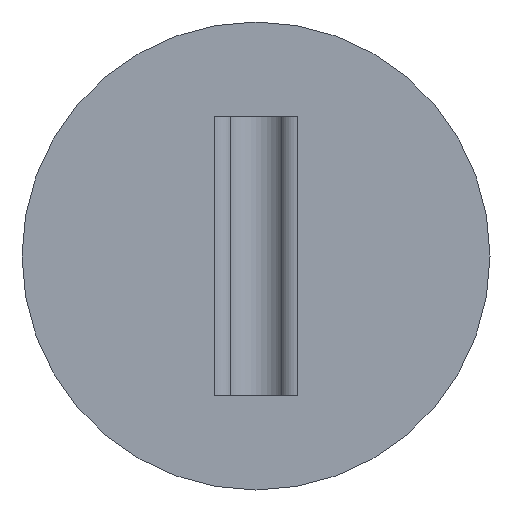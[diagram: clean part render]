
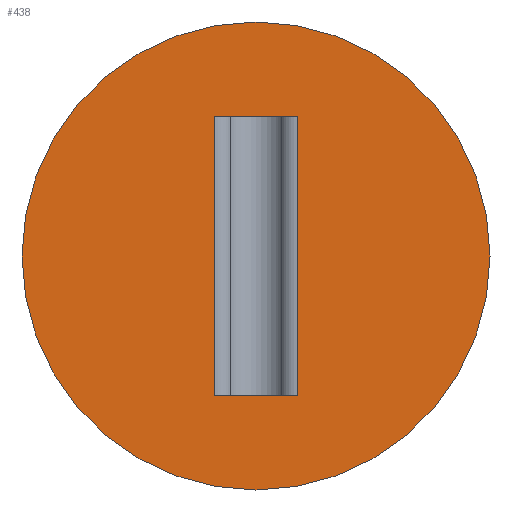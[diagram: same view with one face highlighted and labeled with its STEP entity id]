
A CAD part, front view. The second image highlights one B-rep face of the part: STEP entity #438.
In plain terms, the highlighted planar face has unit normal (0, -1, 0).
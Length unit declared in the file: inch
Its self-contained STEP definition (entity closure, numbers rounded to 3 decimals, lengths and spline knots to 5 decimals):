
#22 = DIRECTION ( 'NONE',  ( 0., 0., 1. ) ) ;
#24 = VECTOR ( 'NONE', #189, 39.37008 ) ;
#35 = LINE ( 'NONE', #267, #487 ) ;
#42 = CARTESIAN_POINT ( 'NONE',  ( 0.625, -0.04, 0.373 ) ) ;
#43 = CIRCLE ( 'NONE', #112, 0.625 ) ;
#53 = ORIENTED_EDGE ( 'NONE', *, *, #182, .F. ) ;
#63 = LINE ( 'NONE', #223, #350 ) ;
#67 = CARTESIAN_POINT ( 'NONE',  ( -0.11051, -0.04, 0. ) ) ;
#72 = DIRECTION ( 'NONE',  ( 1., 0., 0. ) ) ;
#78 = VECTOR ( 'NONE', #168, 39.37008 ) ;
#87 = CIRCLE ( 'NONE', #369, 0.625 ) ;
#93 = CARTESIAN_POINT ( 'NONE',  ( -0.11051, -0.04, 0.746 ) ) ;
#99 = VERTEX_POINT ( 'NONE', #385 ) ;
#103 = DIRECTION ( 'NONE',  ( 0., -1., 0. ) ) ;
#107 = CARTESIAN_POINT ( 'NONE',  ( -0.11051, -0.04, 0. ) ) ;
#112 = AXIS2_PLACEMENT_3D ( 'NONE', #231, #103, #378 ) ;
#117 = AXIS2_PLACEMENT_3D ( 'NONE', #491, #264, #22 ) ;
#120 = VERTEX_POINT ( 'NONE', #42 ) ;
#137 = DIRECTION ( 'NONE',  ( 1., 0., 0. ) ) ;
#143 = FACE_OUTER_BOUND ( 'NONE', #318, .T. ) ;
#148 = DIRECTION ( 'NONE',  ( 0., 0., 1. ) ) ;
#168 = DIRECTION ( 'NONE',  ( 1., 0., 0. ) ) ;
#182 = EDGE_CURVE ( 'NONE', #394, #229, #314, .T. ) ;
#189 = DIRECTION ( 'NONE',  ( 0., 0., 1. ) ) ;
#205 = ORIENTED_EDGE ( 'NONE', *, *, #367, .T. ) ;
#223 = CARTESIAN_POINT ( 'NONE',  ( 0.11051, -0.04, 0. ) ) ;
#228 = CARTESIAN_POINT ( 'NONE',  ( 0.11051, -0.04, 0.746 ) ) ;
#229 = VERTEX_POINT ( 'NONE', #325 ) ;
#231 = CARTESIAN_POINT ( 'NONE',  ( 0., -0.04, 0.373 ) ) ;
#242 = ORIENTED_EDGE ( 'NONE', *, *, #452, .T. ) ;
#248 = VERTEX_POINT ( 'NONE', #93 ) ;
#256 = ORIENTED_EDGE ( 'NONE', *, *, #349, .F. ) ;
#264 = DIRECTION ( 'NONE',  ( 0., 1., 0. ) ) ;
#267 = CARTESIAN_POINT ( 'NONE',  ( -0.11051, -0.04, 0.746 ) ) ;
#279 = ORIENTED_EDGE ( 'NONE', *, *, #421, .T. ) ;
#314 = LINE ( 'NONE', #460, #78 ) ;
#318 = EDGE_LOOP ( 'NONE', ( #205, #242 ) ) ;
#325 = CARTESIAN_POINT ( 'NONE',  ( 0.11051, -0.04, 0. ) ) ;
#331 = DIRECTION ( 'NONE',  ( 0., -1., 0. ) ) ;
#336 = LINE ( 'NONE', #67, #24 ) ;
#340 = VERTEX_POINT ( 'NONE', #228 ) ;
#344 = EDGE_CURVE ( 'NONE', #248, #340, #35, .T. ) ;
#349 = EDGE_CURVE ( 'NONE', #229, #340, #63, .T. ) ;
#350 = VECTOR ( 'NONE', #148, 39.37008 ) ;
#367 = EDGE_CURVE ( 'NONE', #120, #99, #43, .T. ) ;
#369 = AXIS2_PLACEMENT_3D ( 'NONE', #449, #331, #137 ) ;
#375 = PLANE ( 'NONE',  #117 ) ;
#378 = DIRECTION ( 'NONE',  ( 1., 0., 0. ) ) ;
#385 = CARTESIAN_POINT ( 'NONE',  ( -0.625, -0.04, 0.373 ) ) ;
#394 = VERTEX_POINT ( 'NONE', #107 ) ;
#397 = EDGE_LOOP ( 'NONE', ( #53, #279, #478, #256 ) ) ;
#421 = EDGE_CURVE ( 'NONE', #394, #248, #336, .T. ) ;
#438 = ADVANCED_FACE ( 'NONE', ( #143, #445 ), #375, .F. ) ;
#445 = FACE_BOUND ( 'NONE', #397, .T. ) ;
#449 = CARTESIAN_POINT ( 'NONE',  ( 0., -0.04, 0.373 ) ) ;
#452 = EDGE_CURVE ( 'NONE', #99, #120, #87, .T. ) ;
#460 = CARTESIAN_POINT ( 'NONE',  ( -0.11051, -0.04, 0. ) ) ;
#478 = ORIENTED_EDGE ( 'NONE', *, *, #344, .T. ) ;
#487 = VECTOR ( 'NONE', #72, 39.37008 ) ;
#491 = CARTESIAN_POINT ( 'NONE',  ( -0.625, -0.04, 0.746 ) ) ;
